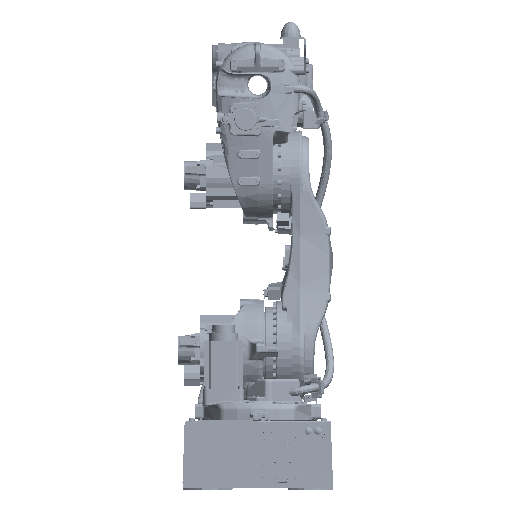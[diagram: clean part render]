
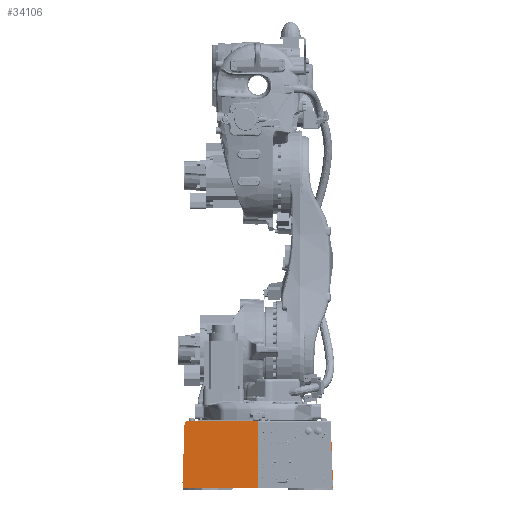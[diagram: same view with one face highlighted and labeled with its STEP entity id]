
A CAD part, front view. The second image highlights one B-rep face of the part: STEP entity #34106.
In plain terms, the highlighted planar face has unit normal (0, -1, 0).
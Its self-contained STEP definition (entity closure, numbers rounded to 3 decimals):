
#27256=CARTESIAN_POINT('Vertex',(249.302,-500.,5.)) ;
#27259=CARTESIAN_POINT('Line Origine',(0.,-500.,5.)) ;
#27263=CARTESIAN_POINT('Vertex',(-249.302,-500.,5.)) ;
#34022=CARTESIAN_POINT('Vertex',(250.,-500.,25.)) ;
#34025=CARTESIAN_POINT('Line Origine',(249.651,-500.,15.)) ;
#34051=CARTESIAN_POINT('Axis2P3D Location',(-250.,-500.,0.)) ;
#34056=CARTESIAN_POINT('Line Origine',(246.54,-500.,124.087)) ;
#34060=CARTESIAN_POINT('Vertex',(243.08,-500.,223.174)) ;
#34063=CARTESIAN_POINT('Axis2P3D Location',(238.083,-500.,223.)) ;
#34067=CARTESIAN_POINT('Vertex',(238.083,-500.,228.)) ;
#34070=CARTESIAN_POINT('Line Origine',(0.,-500.,228.)) ;
#34074=CARTESIAN_POINT('Vertex',(-238.083,-500.,228.)) ;
#34077=CARTESIAN_POINT('Axis2P3D Location',(-238.083,-500.,223.)) ;
#34081=CARTESIAN_POINT('Vertex',(-243.08,-500.,223.174)) ;
#34084=CARTESIAN_POINT('Line Origine',(-246.54,-500.,124.087)) ;
#34088=CARTESIAN_POINT('Vertex',(-250.,-500.,25.)) ;
#34091=CARTESIAN_POINT('Line Origine',(-249.651,-500.,15.)) ;
#27260=DIRECTION('Vector Direction',(1.,0.,0.)) ;
#34026=DIRECTION('Vector Direction',(-0.035,0.,-0.999)) ;
#34052=DIRECTION('Axis2P3D Direction',(0.,-1.,0.)) ;
#34053=DIRECTION('Axis2P3D XDirection',(1.,0.,0.)) ;
#34057=DIRECTION('Vector Direction',(-0.035,0.,0.999)) ;
#34064=DIRECTION('Axis2P3D Direction',(0.,-1.,0.)) ;
#34071=DIRECTION('Vector Direction',(1.,0.,0.)) ;
#34078=DIRECTION('Axis2P3D Direction',(0.,-1.,0.)) ;
#34085=DIRECTION('Vector Direction',(0.035,0.,0.999)) ;
#34092=DIRECTION('Vector Direction',(0.035,0.,-0.999)) ;
#34054=AXIS2_PLACEMENT_3D('Plane Axis2P3D',#34051,#34052,#34053) ;
#34065=AXIS2_PLACEMENT_3D('Circle Axis2P3D',#34063,#34064,$) ;
#34079=AXIS2_PLACEMENT_3D('Circle Axis2P3D',#34077,#34078,$) ;
#34097=ORIENTED_EDGE('',*,*,#34029,.T.) ;
#34098=ORIENTED_EDGE('',*,*,#34062,.T.) ;
#34099=ORIENTED_EDGE('',*,*,#34069,.F.) ;
#34100=ORIENTED_EDGE('',*,*,#34076,.F.) ;
#34101=ORIENTED_EDGE('',*,*,#34083,.F.) ;
#34102=ORIENTED_EDGE('',*,*,#34090,.F.) ;
#34103=ORIENTED_EDGE('',*,*,#34095,.T.) ;
#34104=ORIENTED_EDGE('',*,*,#27265,.T.) ;
#27261=VECTOR('Line Direction',#27260,1.) ;
#34027=VECTOR('Line Direction',#34026,1.) ;
#34058=VECTOR('Line Direction',#34057,1.) ;
#34072=VECTOR('Line Direction',#34071,1.) ;
#34086=VECTOR('Line Direction',#34085,1.) ;
#34093=VECTOR('Line Direction',#34092,1.) ;
#34106=ADVANCED_FACE('BASE',(#34105),#34055,.T.) ;
#34066=CIRCLE('generated circle',#34065,5.) ;
#34080=CIRCLE('generated circle',#34079,5.) ;
#27265=EDGE_CURVE('',#27264,#27257,#27262,.T.) ;
#34029=EDGE_CURVE('',#27257,#34023,#34028,.F.) ;
#34062=EDGE_CURVE('',#34023,#34061,#34059,.T.) ;
#34069=EDGE_CURVE('',#34068,#34061,#34066,.F.) ;
#34076=EDGE_CURVE('',#34075,#34068,#34073,.T.) ;
#34083=EDGE_CURVE('',#34082,#34075,#34080,.F.) ;
#34090=EDGE_CURVE('',#34089,#34082,#34087,.T.) ;
#34095=EDGE_CURVE('',#34089,#27264,#34094,.T.) ;
#34096=EDGE_LOOP('',(#34097,#34098,#34099,#34100,#34101,#34102,#34103,#34104)) ;
#34105=FACE_OUTER_BOUND('',#34096,.T.) ;
#27262=LINE('Line',#27259,#27261) ;
#34028=LINE('Line',#34025,#34027) ;
#34059=LINE('Line',#34056,#34058) ;
#34073=LINE('Line',#34070,#34072) ;
#34087=LINE('Line',#34084,#34086) ;
#34094=LINE('Line',#34091,#34093) ;
#34055=PLANE('',#34054) ;
#27257=VERTEX_POINT('',#27256) ;
#27264=VERTEX_POINT('',#27263) ;
#34023=VERTEX_POINT('',#34022) ;
#34061=VERTEX_POINT('',#34060) ;
#34068=VERTEX_POINT('',#34067) ;
#34075=VERTEX_POINT('',#34074) ;
#34082=VERTEX_POINT('',#34081) ;
#34089=VERTEX_POINT('',#34088) ;
